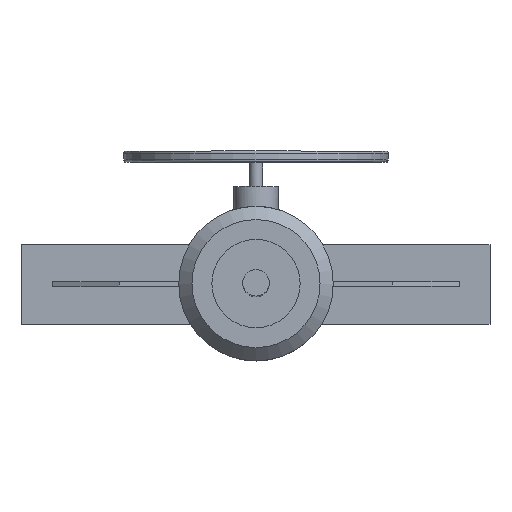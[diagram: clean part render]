
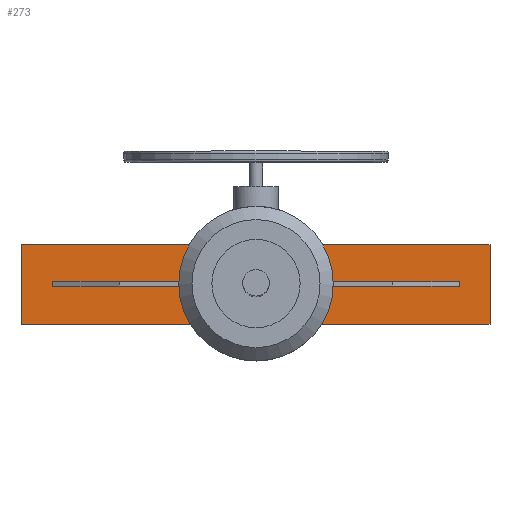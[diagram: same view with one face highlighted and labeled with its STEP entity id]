
A CAD part, top view. The second image highlights one B-rep face of the part: STEP entity #273.
In plain terms, the highlighted planar face has unit normal (0, 0, 1).
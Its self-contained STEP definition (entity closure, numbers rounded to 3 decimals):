
#273=ADVANCED_FACE('',(#2971,#2973),#2975,.T.);
#2971=FACE_BOUND('',#2972,.T.);
#2972=EDGE_LOOP('',(#5267,#5268,#5269,#5270,#5271,#5272,#5273,#5274));
#2973=FACE_BOUND('',#2974,.T.);
#2974=EDGE_LOOP('',(#5275,#5276,#5277,#5278));
#2975=PLANE('',#2976);
#2976=AXIS2_PLACEMENT_3D('',#2977,#2978,#2979);
#2977=CARTESIAN_POINT('',(0.,0.,730.));
#2978=DIRECTION('',(0.,0.,1.));
#2979=DIRECTION('',(1.,0.,0.));
#5267=ORIENTED_EDGE('',*,*,#6559,.F.);
#5268=ORIENTED_EDGE('',*,*,#6557,.T.);
#5269=ORIENTED_EDGE('',*,*,#6570,.T.);
#5270=ORIENTED_EDGE('',*,*,#6563,.T.);
#5271=ORIENTED_EDGE('',*,*,#6562,.F.);
#5272=ORIENTED_EDGE('',*,*,#6567,.T.);
#5273=ORIENTED_EDGE('',*,*,#6571,.T.);
#5274=ORIENTED_EDGE('',*,*,#6553,.T.);
#5275=ORIENTED_EDGE('',*,*,#6572,.F.);
#5276=ORIENTED_EDGE('',*,*,#6573,.F.);
#5277=ORIENTED_EDGE('',*,*,#6574,.F.);
#5278=ORIENTED_EDGE('',*,*,#6575,.F.);
#6553=EDGE_CURVE('',#7262,#7245,#7263,.T.);
#6557=EDGE_CURVE('',#7225,#7268,#7270,.T.);
#6559=EDGE_CURVE('',#7225,#7245,#7272,.T.);
#6562=EDGE_CURVE('',#7239,#7231,#7276,.T.);
#6563=EDGE_CURVE('',#7277,#7231,#7278,.T.);
#6567=EDGE_CURVE('',#7239,#7283,#7285,.T.);
#6570=EDGE_CURVE('',#7268,#7277,#7290,.T.);
#6571=EDGE_CURVE('',#7283,#7262,#7291,.T.);
#6572=EDGE_CURVE('',#7292,#7293,#7294,.T.);
#6573=EDGE_CURVE('',#7295,#7292,#7296,.F.);
#6574=EDGE_CURVE('',#7297,#7295,#7298,.T.);
#6575=EDGE_CURVE('',#7293,#7297,#7299,.T.);
#7225=VERTEX_POINT('',#8434);
#7231=VERTEX_POINT('',#8446);
#7239=VERTEX_POINT('',#8464);
#7245=VERTEX_POINT('',#8476);
#7262=VERTEX_POINT('',#8524);
#7263=LINE('',#8525,#8526);
#7268=VERTEX_POINT('',#8536);
#7270=LINE('',#8540,#8541);
#7272=LINE('',#8546,#8547);
#7276=LINE('',#8557,#8558);
#7277=VERTEX_POINT('',#8560);
#7278=LINE('',#8561,#8562);
#7283=VERTEX_POINT('',#8572);
#7285=LINE('',#8576,#8577);
#7290=LINE('',#8589,#8590);
#7291=LINE('',#8592,#8593);
#7292=VERTEX_POINT('',#8595);
#7293=VERTEX_POINT('',#8596);
#7294=LINE('',#8597,#8598);
#7295=VERTEX_POINT('',#8600);
#7296=LINE('',#8601,#8602);
#7297=VERTEX_POINT('',#8604);
#7298=LINE('',#8605,#8606);
#7299=LINE('',#8608,#8609);
#8434=CARTESIAN_POINT('',(140.,-90.,730.));
#8446=CARTESIAN_POINT('',(140.,90.,730.));
#8464=CARTESIAN_POINT('',(-140.,90.,730.));
#8476=CARTESIAN_POINT('',(-140.,-90.,730.));
#8524=CARTESIAN_POINT('',(-530.,-90.,730.));
#8525=CARTESIAN_POINT('',(-530.,-90.,730.));
#8526=VECTOR('',#8527,1.);
#8527=DIRECTION('',(1.,0.,0.));
#8536=CARTESIAN_POINT('',(530.,-90.,730.));
#8540=CARTESIAN_POINT('',(140.,-90.,730.));
#8541=VECTOR('',#8542,1.);
#8542=DIRECTION('',(1.,0.,0.));
#8546=CARTESIAN_POINT('',(140.,-90.,730.));
#8547=VECTOR('',#8548,1.);
#8548=DIRECTION('',(-1.,0.,0.));
#8557=CARTESIAN_POINT('',(-140.,90.,730.));
#8558=VECTOR('',#8559,1.);
#8559=DIRECTION('',(1.,0.,0.));
#8560=CARTESIAN_POINT('',(530.,90.,730.));
#8561=CARTESIAN_POINT('',(530.,90.,730.));
#8562=VECTOR('',#8563,1.);
#8563=DIRECTION('',(-1.,0.,0.));
#8572=CARTESIAN_POINT('',(-530.,90.,730.));
#8576=CARTESIAN_POINT('',(-140.,90.,730.));
#8577=VECTOR('',#8578,1.);
#8578=DIRECTION('',(-1.,0.,0.));
#8589=CARTESIAN_POINT('',(530.,-90.,730.));
#8590=VECTOR('',#8591,1.);
#8591=DIRECTION('',(0.,1.,0.));
#8592=CARTESIAN_POINT('',(-530.,90.,730.));
#8593=VECTOR('',#8594,1.);
#8594=DIRECTION('',(0.,-1.,0.));
#8595=CARTESIAN_POINT('',(-460.,5.,730.));
#8596=CARTESIAN_POINT('',(-460.,-5.,730.));
#8597=CARTESIAN_POINT('',(-460.,5.,730.));
#8598=VECTOR('',#8599,1.);
#8599=DIRECTION('',(0.,-1.,0.));
#8600=CARTESIAN_POINT('',(460.,5.,730.));
#8601=CARTESIAN_POINT('',(-460.,5.,730.));
#8602=VECTOR('',#8603,1.);
#8603=DIRECTION('',(1.,0.,0.));
#8604=CARTESIAN_POINT('',(460.,-5.,730.));
#8605=CARTESIAN_POINT('',(460.,-5.,730.));
#8606=VECTOR('',#8607,1.);
#8607=DIRECTION('',(0.,1.,0.));
#8608=CARTESIAN_POINT('',(-460.,-5.,730.));
#8609=VECTOR('',#8610,1.);
#8610=DIRECTION('',(1.,0.,0.));
